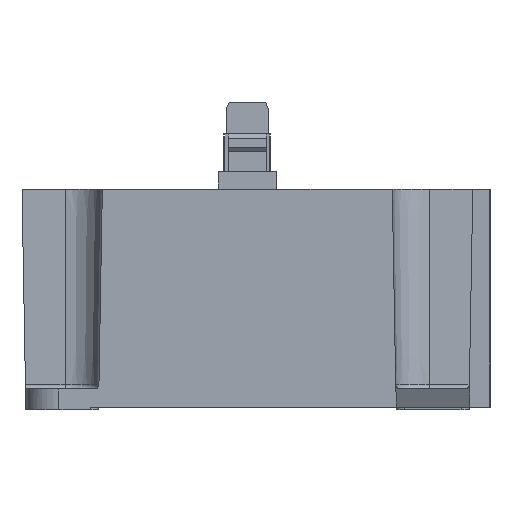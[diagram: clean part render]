
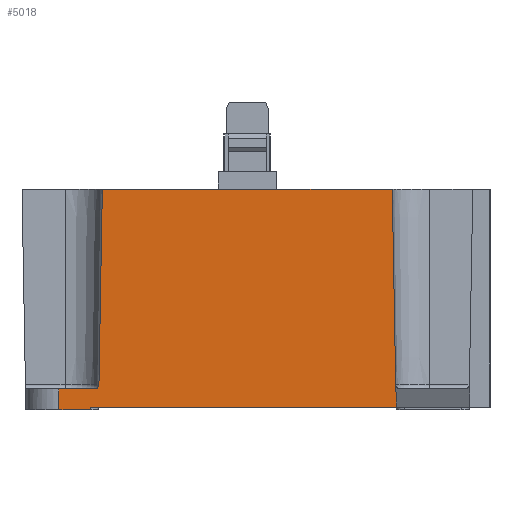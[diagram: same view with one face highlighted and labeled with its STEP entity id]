
A CAD part, left-side view. The second image highlights one B-rep face of the part: STEP entity #5018.
In plain terms, the highlighted planar face has unit normal (-1, 0, -0.018).
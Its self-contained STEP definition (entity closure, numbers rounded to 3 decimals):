
#3415=CARTESIAN_POINT('',(-26.588,17.912,-23.609));
#3416=VERTEX_POINT('',#3415);
#3423=CARTESIAN_POINT('',(-27.0,17.5,0.0));
#3424=VERTEX_POINT('',#3423);
#3425=CARTESIAN_POINT('',(-27.0,17.5,0.));
#3426=DIRECTION('',(0.017,0.017,-1.));
#3427=VECTOR('',#3426,23.616);
#3428=LINE('',#3425,#3427);
#3429=EDGE_CURVE('',#3424,#3416,#3428,.T.);
#3737=CARTESIAN_POINT('',(-26.541,-17.962,-26.3));
#3738=VERTEX_POINT('',#3737);
#3788=CARTESIAN_POINT('',(-26.585,-17.947,-23.784));
#3789=VERTEX_POINT('',#3788);
#3797=CARTESIAN_POINT('',(-26.585,-17.947,-23.784));
#3798=DIRECTION('',(0.017,-0.006,-1.));
#3799=VECTOR('',#3798,2.516);
#3800=LINE('',#3797,#3799);
#3801=EDGE_CURVE('',#3789,#3738,#3800,.T.);
#3850=CARTESIAN_POINT('',(-26.541,18.959,-26.3));
#3851=VERTEX_POINT('',#3850);
#3852=CARTESIAN_POINT('',(-26.541,-17.962,-26.3));
#3853=DIRECTION('',(0.0,1.0,0.0));
#3854=VECTOR('',#3853,36.921);
#3855=LINE('',#3852,#3854);
#3856=EDGE_CURVE('',#3738,#3851,#3855,.T.);
#4946=CARTESIAN_POINT('',(-27.0,27.2,0.0));
#4947=DIRECTION('',(-1.,0.,-0.017));
#4948=DIRECTION('',(0.0,1.0,0.0));
#4949=AXIS2_PLACEMENT_3D('',#4946,#4947,#4948);
#4950=PLANE('',#4949);
#4951=ORIENTED_EDGE('',*,*,#3856,.F.);
#4952=ORIENTED_EDGE('',*,*,#3801,.F.);
#4953=CARTESIAN_POINT('',(-26.588,-17.912,-23.609));
#4954=VERTEX_POINT('',#4953);
#4955=CARTESIAN_POINT('',(-26.588,-18.412,-23.6));
#4956=DIRECTION('',(-1.,0.,-0.017));
#4957=DIRECTION('',(0.017,0.,-1.));
#4958=AXIS2_PLACEMENT_3D('',#4955,#4956,#4957);
#4959=ELLIPSE('',#4958,0.5,0.5);
#4960=EDGE_CURVE('',#3789,#4954,#4959,.F.);
#4961=ORIENTED_EDGE('',*,*,#4960,.T.);
#4962=CARTESIAN_POINT('',(-27.0,-17.5,0.0));
#4963=VERTEX_POINT('',#4962);
#4964=CARTESIAN_POINT('',(-26.588,-17.912,-23.609));
#4965=DIRECTION('',(-0.017,0.017,1.));
#4966=VECTOR('',#4965,23.616);
#4967=LINE('',#4964,#4966);
#4968=EDGE_CURVE('',#4954,#4963,#4967,.T.);
#4969=ORIENTED_EDGE('',*,*,#4968,.T.);
#4970=CARTESIAN_POINT('',(-27.,-17.5,0.0));
#4971=DIRECTION('',(0.0,1.0,0.0));
#4972=VECTOR('',#4971,35.);
#4973=LINE('',#4970,#4972);
#4974=EDGE_CURVE('',#4963,#3424,#4973,.T.);
#4975=ORIENTED_EDGE('',*,*,#4974,.T.);
#4976=ORIENTED_EDGE('',*,*,#3429,.T.);
#4977=CARTESIAN_POINT('',(-26.579,18.412,-24.1));
#4978=VERTEX_POINT('',#4977);
#4979=CARTESIAN_POINT('',(-26.588,18.412,-23.6));
#4980=DIRECTION('',(-1.,0.,-0.017));
#4981=DIRECTION('',(0.017,0.,-1.));
#4982=AXIS2_PLACEMENT_3D('',#4979,#4980,#4981);
#4983=ELLIPSE('',#4982,0.5,0.5);
#4984=EDGE_CURVE('',#4978,#3416,#4983,.T.);
#4985=ORIENTED_EDGE('',*,*,#4984,.F.);
#4986=CARTESIAN_POINT('',(-26.579,22.78,-24.1));
#4987=VERTEX_POINT('',#4986);
#4988=CARTESIAN_POINT('',(-26.579,18.412,-24.1));
#4989=DIRECTION('',(0.0,1.0,0.0));
#4990=VECTOR('',#4989,4.368);
#4991=LINE('',#4988,#4990);
#4992=EDGE_CURVE('',#4978,#4987,#4991,.T.);
#4993=ORIENTED_EDGE('',*,*,#4992,.T.);
#4994=CARTESIAN_POINT('',(-26.536,22.736,-26.6));
#4995=VERTEX_POINT('',#4994);
#4996=CARTESIAN_POINT('',(-26.536,22.736,-26.6));
#4997=DIRECTION('',(-0.017,0.017,1.));
#4998=VECTOR('',#4997,2.501);
#4999=LINE('',#4996,#4998);
#5000=EDGE_CURVE('',#4995,#4987,#4999,.T.);
#5001=ORIENTED_EDGE('',*,*,#5000,.F.);
#5002=CARTESIAN_POINT('',(-26.536,18.964,-26.6));
#5003=VERTEX_POINT('',#5002);
#5004=CARTESIAN_POINT('',(-26.536,22.736,-26.6));
#5005=DIRECTION('',(0.0,-1.0,0.0));
#5006=VECTOR('',#5005,3.772);
#5007=LINE('',#5004,#5006);
#5008=EDGE_CURVE('',#4995,#5003,#5007,.T.);
#5009=ORIENTED_EDGE('',*,*,#5008,.T.);
#5010=CARTESIAN_POINT('',(-26.541,18.959,-26.3));
#5011=DIRECTION('',(0.017,0.017,-1.));
#5012=VECTOR('',#5011,0.3);
#5013=LINE('',#5010,#5012);
#5014=EDGE_CURVE('',#3851,#5003,#5013,.T.);
#5015=ORIENTED_EDGE('',*,*,#5014,.F.);
#5016=EDGE_LOOP('',(#4951,#4952,#4961,#4969,#4975,#4976,#4985,#4993,#5001,#5009,#5015));
#5017=FACE_OUTER_BOUND('',#5016,.T.);
#5018=ADVANCED_FACE('',(#5017),#4950,.T.);
